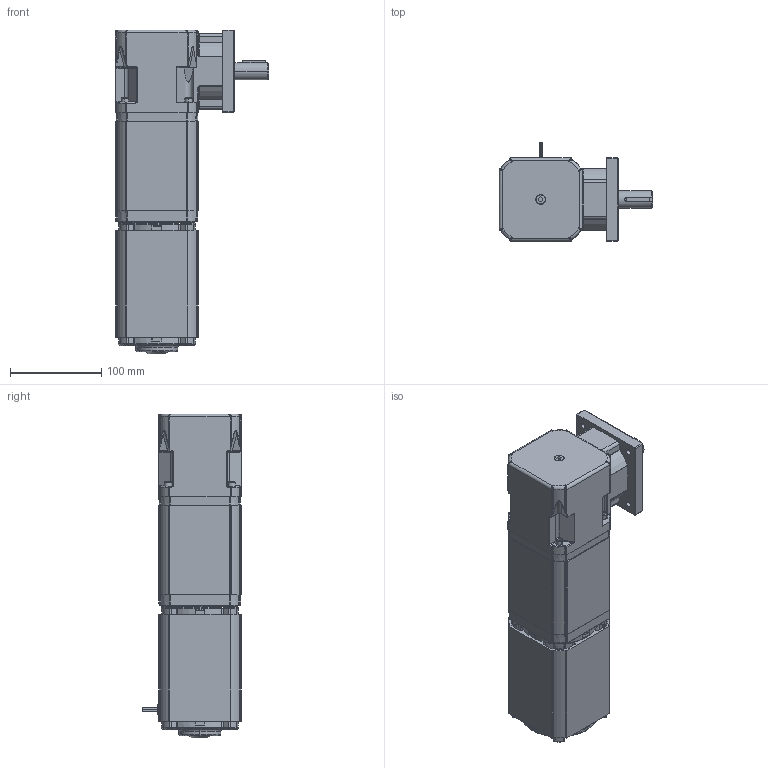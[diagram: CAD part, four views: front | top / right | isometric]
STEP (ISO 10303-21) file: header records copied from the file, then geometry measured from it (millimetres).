
FILE_DESCRIPTION (( 'STEP AP214' ), '1' );
FILE_NAME ('AC8040NV-RP7300_3S.STEP', '2013-08-28T20:13:44', ( '' ), ( '' ), 'SwSTEP 2.0', 'SolidWorks 2013', '' );
FILE_SCHEMA (( 'AUTOMOTIVE_DESIGN' ));
Length unit declared in the file: inch
Products named in the file (1): AC8040NV-RP7300_3S
Bounding box: 168.09 x 107.92 x 354.11 mm (x, y, z)
Surface area: 242272.9 mm2 (no closed solid volume)
Topology: 0 solids, 49 shells, 1151 faces, 3532 edges, 2325 vertices
Faces by surface type: cylinder 446, plane 328, bspline 139, cone 109, torus 96, sphere 33
Entity records: 57931 total; most frequent: CARTESIAN_POINT 12746, DIRECTION 6565, ORIENTED_EDGE 5740, EDGE_CURVE 3483, AXIS2_PLACEMENT_3D 2556, VERTEX_POINT 2325, CIRCLE 1543, LINE 1453
